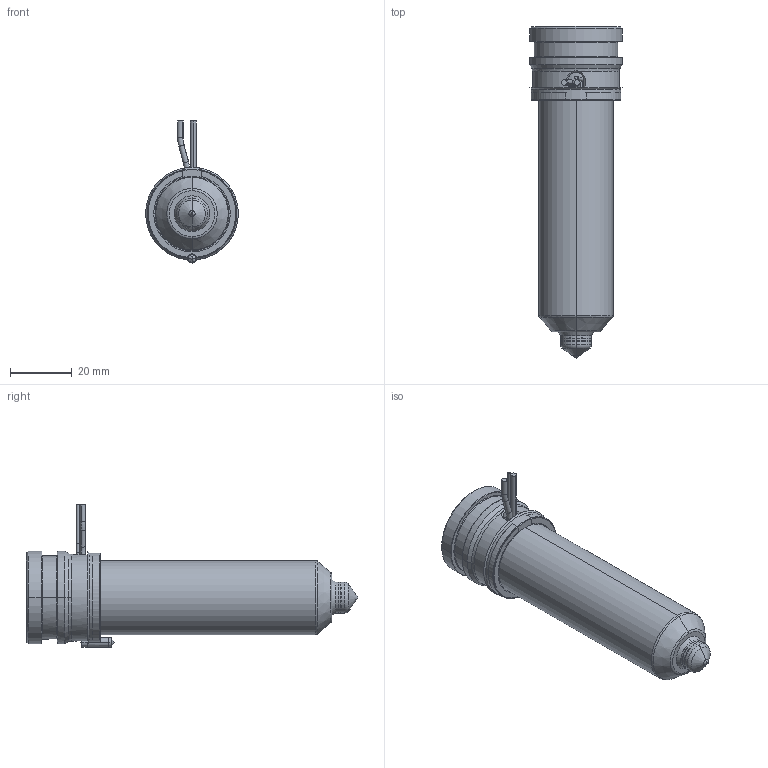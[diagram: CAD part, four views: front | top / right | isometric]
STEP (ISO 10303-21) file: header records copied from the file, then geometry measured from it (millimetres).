
FILE_DESCRIPTION((''),'2;1');
FILE_NAME('MPN-10-29-TX10-086-A','2026-02-11T11:17:01',('UVRWS'),('Thermoplay S.p.A.'),'CREO PARAMETRIC BY PTC INC, 2023494','CREO PARAMETRIC BY PTC INC, 2023494','');
FILE_SCHEMA(('CONFIG_CONTROL_DESIGN','SHAPE_APPEARANCE_LAYERS_GROUPS'));
Length unit declared in the file: millimetre
Products named in the file (1): MPN-10-29-TX10-086-A
Bounding box: 30 x 107.5 x 46 mm (x, y, z)
Volume: 34043.3 mm3; surface area: 33745.7 mm2
Topology: 2 solids, 3 shells, 551 faces, 1455 edges, 899 vertices
Faces by surface type: cylinder 180, plane 143, bspline 79, torus 68, cone 66, sphere 11, extrusion 4
Entity records: 29326 total; most frequent: CARTESIAN_POINT 12970, ORIENTED_EDGE 2894, DIRECTION 2641, EDGE_CURVE 1447, AXIS2_PLACEMENT_3D 1045, VERTEX_POINT 899, EDGE_LOOP 580, CIRCLE 576
